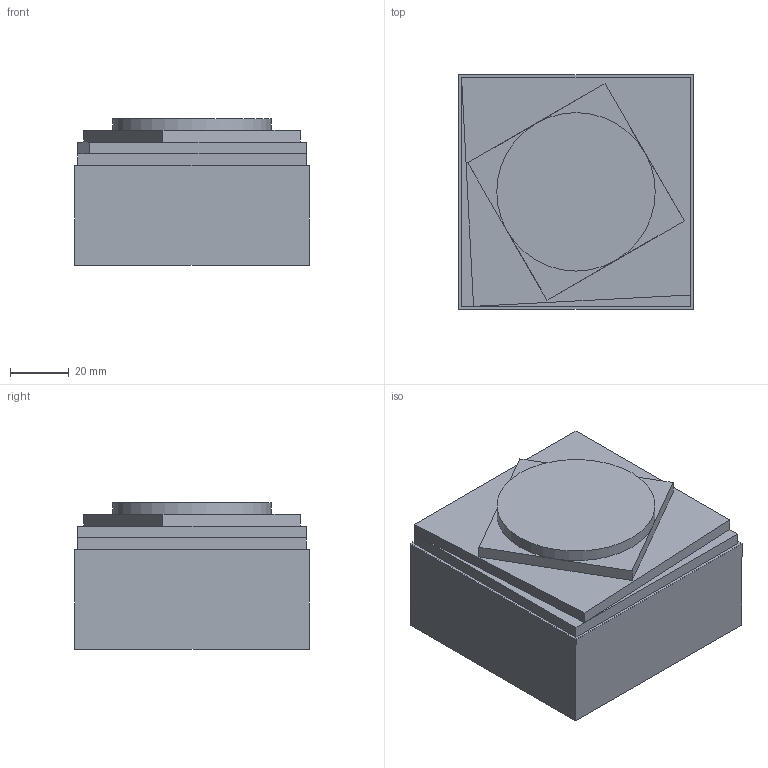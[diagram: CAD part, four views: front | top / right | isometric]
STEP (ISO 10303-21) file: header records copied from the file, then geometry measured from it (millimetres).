
FILE_DESCRIPTION(/* description */ (''),/* implementation_level */ '2;1');
FILE_NAME(/* name */ '8.step',/* time_stamp */ '2025-09-02T11:27:31+02:00',/* author */ (''),/* organization */ (''),/* preprocessor_version */ 'ST-DEVELOPER v20.1',/* originating_system */ 'Autodesk Translation Framework v14.10.0.0',/* authorisation */ '');
FILE_SCHEMA (('AUTOMOTIVE_DESIGN { 1 0 10303 214 3 1 1 }'));
Length unit declared in the file: millimetre
Products named in the file (2): FR2000_geringste_bearbeitungsdauer; Benchmark hardcore-optimiert
Assembly tree (1 placements, depth 2):
  FR2000_geringste_bearbeitungsdauer
    Benchmark hardcore-optimiert
Bounding box: 80 x 80 x 50 mm (x, y, z)
Volume: 285886.6 mm3; surface area: 27687.6 mm2
Topology: 1 solids, 1 shells, 25 faces, 56 edges, 35 vertices
Faces by surface type: plane 24, cylinder 1
Full cylindrical faces by diameter (mm): 54 x1
Entity records: 740 total; most frequent: CARTESIAN_POINT 119, DIRECTION 118, ORIENTED_EDGE 112, EDGE_CURVE 56, LINE 50, VECTOR 50, VERTEX_POINT 35, AXIS2_PLACEMENT_3D 34
